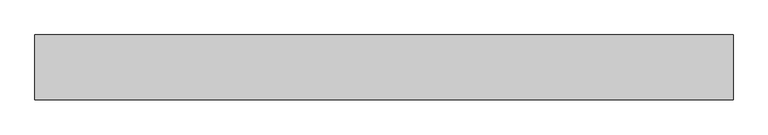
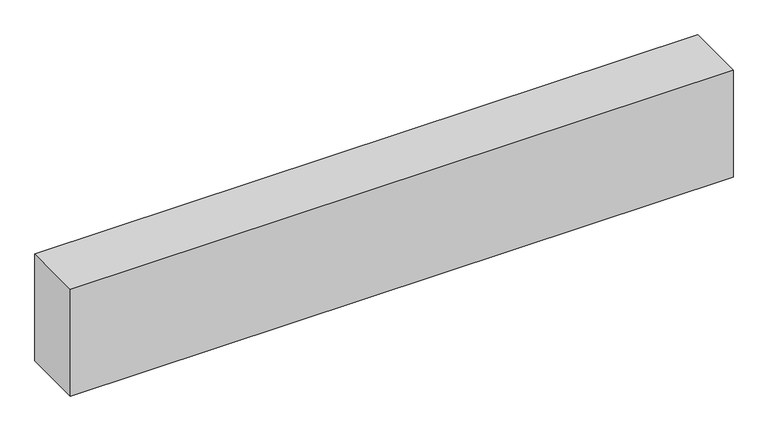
"""IFC4 building model written with IfcOpenShell, lengths in millimetres: proxy geometry, Перемычка_ЖБ_центр_ГОСТ_948-2016_(ОбМодель_Осн-Стена) : 3ПБ13-37."""

from ifc_helpers import new_model, si_unit, frame, origin, place, context, project, spatial, polyline, outline, extrude, source, transform, mapped, element, save


def generic_models_f8d5ced3(model_context):
    return source(origin(), model_context, "Body", "SweptSolid", [
        extrude(outline(polyline([(806.81445, -91.2980869), (-483.18555, -91.2980869), (-483.18555, 28.7019131), (806.81445, 28.7019131), (806.81445, -91.2980869)])), frame((0.0, 0.0, 2100.0), z_axis=(0.0, 0.0, 1.0), x_axis=(1.0, 0.0, 0.0)), (0.0, 0.0, 1.0), 220.0),
    ])


if __name__ == "__main__":
    model = new_model("IFC4")
    model_context = context("Model", 3, world=origin())
    ifc_project = project(units=[si_unit("LENGTHUNIT", "METRE", prefix="MILLI")], contexts=[model_context])
    site = spatial("IfcSite", under=ifc_project)
    building = spatial("IfcBuilding", under=site)
    placement = place(None, origin())
    generic_models_shape = generic_models_f8d5ced3(model_context)
    element("IfcBuildingElementProxy", 1, Name="Перемычка_ЖБ_центр_ГОСТ_948-2016_(ОбМодель_Осн-Стена) : 3ПБ13-37", ObjectType="Перемычка_ЖБ_центр_ГОСТ_948-2016_(ОбМодель_Осн-Стена) : 3ПБ13-37", at=placement, inside=building, context=model_context, shape_type="MappedRepresentation", body=[
        mapped(generic_models_shape, transform((0.0, 0.0, 0.0), x_axis=(1.0, 0.0, 0.0), y_axis=(0.0, 1.0, 0.0), z_axis=(0.0, 0.0, 1.0))),
    ])
    save(model, "model.ifc")
